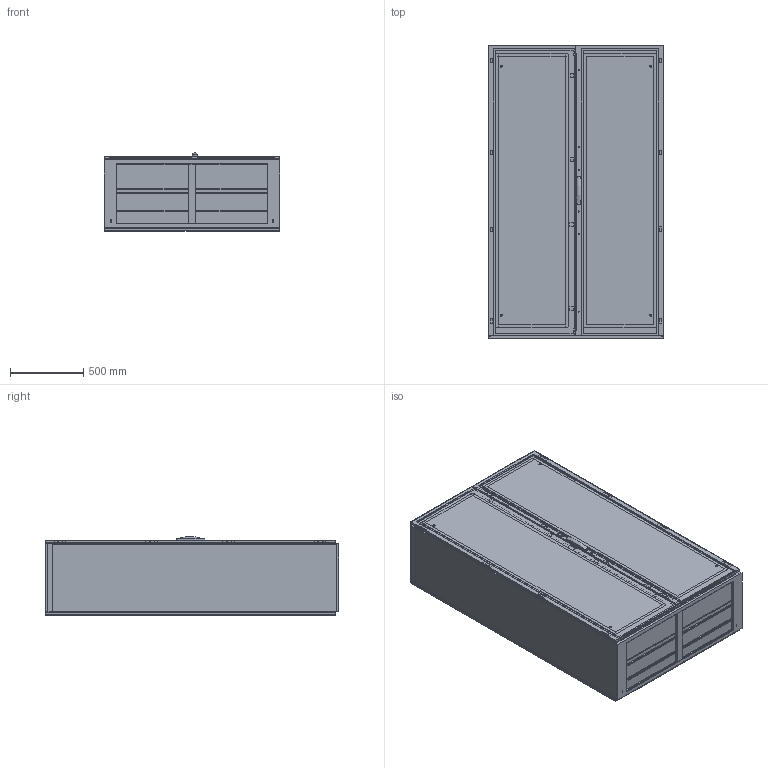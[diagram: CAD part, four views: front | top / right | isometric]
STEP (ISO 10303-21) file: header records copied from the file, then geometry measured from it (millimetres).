
FILE_DESCRIPTION(/* description */ ('STEP AP203'),/* implementation_level */ '2;1');
FILE_NAME(/* name */ 'MKD20125R5(0)',/* time_stamp */ '2024-02-23T10:55:32+01:00',/* author */ ('License CC BY-ND 4.0'),/* organization */ ('CADENAS'),/* preprocessor_version */ 'ST-DEVELOPER v19.3',/* originating_system */ 'PARTsolutions',/* authorisation */ ' ');
FILE_SCHEMA (('CONFIG_CONTROL_DESIGN'));
Length unit declared in the file: millimetre
Products named in the file (26): MKD20125R5(0); MKD20125R5(0)_Frame; CRPK12(0)_Rear Panel Mounting Kit; CRP2012R5(0)_Rear Panel; CRPK12(0)_Rear Panel Bracket; DNMK02(0)_Hinge Right; DN2006RR5(0)_Right door; LSSDXXXX(0)_Lock; LSSD2000(0)_Espagnolette Top; LSSD2000(0)_Espagnolette Bottom; DNMK02(0)_Hinge Left; DN2006LR5(0)_Left door; LSEL2000(0)_Left Door Espagnolette; DNMK01(0)_Rod catches; MPA06(0)_Mounting Plate Brackets 1; MP2012(0)_P1; MPA06(0)_Mounting Plate Brackets 2; MPA06(0)_Mounting Plate Brackets 3; MPA06(0)_Mounting Plate Brackets 4; CCR125R5(0)_MKD Roof plate; Bottom Plate Profile_1200x500(0); CBPW1200D200(0)_Bottom Plate 3; CBP120(0)_Bottom Plate 1; CBP120(0)_Bottom Plate 2; LSSD2000(0)_Lock Catch; LSELXX12X(0)_Left Door Espagnolette
Assembly tree (47 placements, depth 2):
  MKD20125R5(0)
    MKD20125R5(0)_Frame
    CRPK12(0)_Rear Panel Mounting Kit  x8
    CRP2012R5(0)_Rear Panel
    CRPK12(0)_Rear Panel Bracket  x2
    DNMK02(0)_Hinge Right  x4
    DN2006RR5(0)_Right door
    LSSDXXXX(0)_Lock
    LSSD2000(0)_Espagnolette Top
    LSSD2000(0)_Espagnolette Bottom
    DNMK02(0)_Hinge Left  x4
    DN2006LR5(0)_Left door
    LSEL2000(0)_Left Door Espagnolette
    DNMK01(0)_Rod catches  x4
    MPA06(0)_Mounting Plate Brackets 1
    MP2012(0)_P1
    MPA06(0)_Mounting Plate Brackets 2
    MPA06(0)_Mounting Plate Brackets 3
    MPA06(0)_Mounting Plate Brackets 4
    CCR125R5(0)_MKD Roof plate
    Bottom Plate Profile_1200x500(0)
    CBPW1200D200(0)_Bottom Plate 3  x2
    CBP120(0)_Bottom Plate 1  x2
    CBP120(0)_Bottom Plate 2  x2
    LSSD2000(0)_Lock Catch  x2
    LSELXX12X(0)_Left Door Espagnolette  x2
Bounding box: 1200 x 2005 x 534.91 mm (x, y, z)
Volume: 37907257.5 mm3; surface area: 24374668.1 mm2
Topology: 47 solids, 47 shells, 2172 faces, 5837 edges, 3855 vertices
Faces by surface type: plane 1908, cylinder 195, cone 66, sphere 2, torus 1
Full cylindrical faces by diameter (mm): 2.55 x2, 5 x26, 5.2 x2, 5.8 x2, 6 x6, 6.5 x2, 7 x6, 7.4 x4, 8 x22, 9 x2, 10 x12, 12.5 x1, 13 x3, 14 x6, 14.12 x1, 15 x4
Entity records: 49723 total; most frequent: CARTESIAN_POINT 8489, ORIENTED_EDGE 8052, DIRECTION 7617, EDGE_CURVE 4026, LINE 3609, VECTOR 3609, VERTEX_POINT 2726, AXIS2_PLACEMENT_3D 2004
